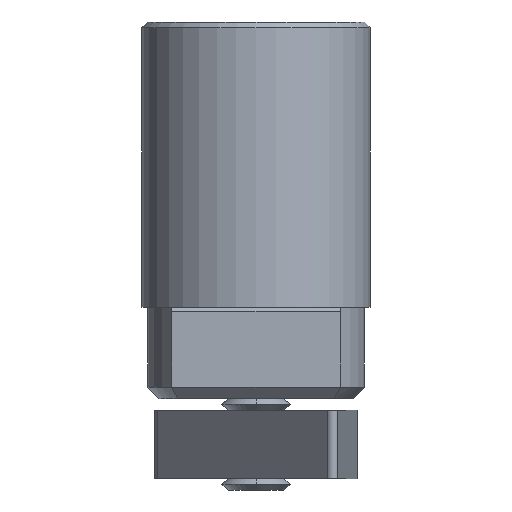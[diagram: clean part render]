
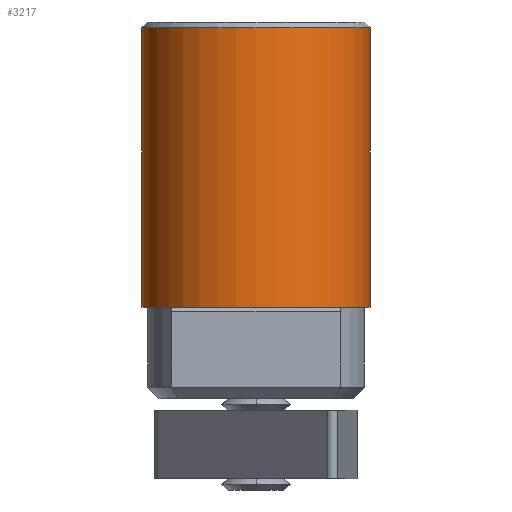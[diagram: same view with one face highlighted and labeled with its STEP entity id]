
A CAD part, front view. The second image highlights one B-rep face of the part: STEP entity #3217.
In plain terms, the highlighted cylindrical face has radius 10 mm (diameter 20 mm), a partial arc.
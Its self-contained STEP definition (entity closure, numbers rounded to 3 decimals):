
#244 = DIRECTION ( 'NONE',  ( 0., 0., -1. ) ) ;
#245 = VECTOR ( 'NONE', #244, 1000. ) ;
#246 = CARTESIAN_POINT ( 'NONE',  ( 10., 0., 25. ) ) ;
#247 = LINE ( 'NONE', #246, #245 ) ;
#643 = CARTESIAN_POINT ( 'NONE',  ( 10., 0., 24.5 ) ) ;
#668 = CARTESIAN_POINT ( 'NONE',  ( -10., 0., 24.5 ) ) ;
#1714 = DIRECTION ( 'NONE',  ( 0., 0., -1. ) ) ;
#1715 = VECTOR ( 'NONE', #1714, 1000. ) ;
#1716 = CARTESIAN_POINT ( 'NONE',  ( -10., 0., 25. ) ) ;
#1717 = LINE ( 'NONE', #1716, #1715 ) ;
#1728 = DIRECTION ( 'NONE',  ( 1., 0., 0. ) ) ;
#1729 = DIRECTION ( 'NONE',  ( 0., 0., 1. ) ) ;
#1730 = CARTESIAN_POINT ( 'NONE',  ( 0., 0., 0. ) ) ;
#1731 = AXIS2_PLACEMENT_3D ( 'NONE', #1730, #1729, #1728 ) ;
#1732 = CIRCLE ( 'NONE', #1731, 10. ) ;
#1763 = CARTESIAN_POINT ( 'NONE',  ( -10., 0., 0. ) ) ;
#1780 = DIRECTION ( 'NONE',  ( -1., 0., 0. ) ) ;
#1781 = DIRECTION ( 'NONE',  ( 0., 0., -1. ) ) ;
#1782 = AXIS2_PLACEMENT_3D ( 'NONE', #1784, #1781, #1780 ) ;
#1784 = CARTESIAN_POINT ( 'NONE',  ( 0., 0., 25. ) ) ;
#1785 = CYLINDRICAL_SURFACE ( 'NONE', #1782, 10. ) ;
#1786 = FACE_OUTER_BOUND ( 'NONE', #3214, .T. ) ;
#1787 = DIRECTION ( 'NONE',  ( 1., 0., 0. ) ) ;
#1788 = DIRECTION ( 'NONE',  ( 0., 0., -1. ) ) ;
#1789 = CARTESIAN_POINT ( 'NONE',  ( 0., 0., 24.5 ) ) ;
#1790 = AXIS2_PLACEMENT_3D ( 'NONE', #1789, #1788, #1787 ) ;
#1791 = CIRCLE ( 'NONE', #1790, 10. ) ;
#1799 = CARTESIAN_POINT ( 'NONE',  ( 10., 0., 0. ) ) ;
#2277 = EDGE_CURVE ( 'NONE', #2506, #3210, #247, .T. ) ;
#2506 = VERTEX_POINT ( 'NONE', #643 ) ;
#2534 = VERTEX_POINT ( 'NONE', #668 ) ;
#3178 = EDGE_CURVE ( 'NONE', #3195, #3210, #1732, .T. ) ;
#3186 = EDGE_CURVE ( 'NONE', #2534, #3195, #1717, .T. ) ;
#3195 = VERTEX_POINT ( 'NONE', #1763 ) ;
#3210 = VERTEX_POINT ( 'NONE', #1799 ) ;
#3214 = EDGE_LOOP ( 'NONE', ( #3215, #3223, #3220, #3227 ) ) ;
#3215 = ORIENTED_EDGE ( 'NONE', *, *, #2277, .F. ) ;
#3216 = EDGE_CURVE ( 'NONE', #2506, #2534, #1791, .T. ) ;
#3217 = ADVANCED_FACE ( 'NONE', ( #1786 ), #1785, .T. ) ;
#3220 = ORIENTED_EDGE ( 'NONE', *, *, #3186, .T. ) ;
#3223 = ORIENTED_EDGE ( 'NONE', *, *, #3216, .T. ) ;
#3227 = ORIENTED_EDGE ( 'NONE', *, *, #3178, .T. ) ;
